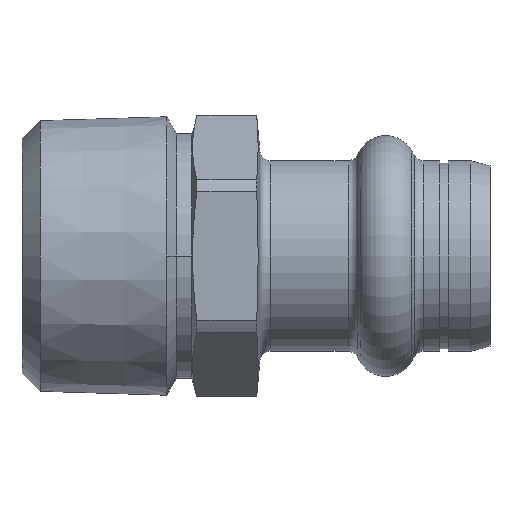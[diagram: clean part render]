
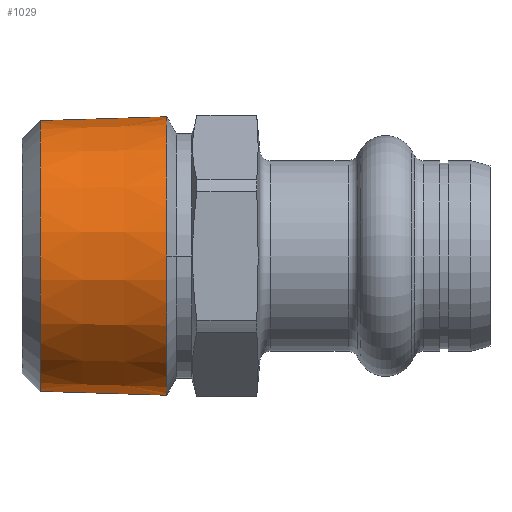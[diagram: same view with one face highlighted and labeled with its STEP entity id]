
A CAD part, left-side view. The second image highlights one B-rep face of the part: STEP entity #1029.
In plain terms, the highlighted conical face has half-angle 1.78 degrees and reference radius 13.407 mm.
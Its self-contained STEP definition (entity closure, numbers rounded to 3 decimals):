
#117 = CARTESIAN_POINT ( 'NONE',  ( 0., 29.4, -13.407 ) ) ;
#194 = LINE ( 'NONE', #1566, #651 ) ;
#306 = FACE_OUTER_BOUND ( 'NONE', #1801, .T. ) ;
#437 = VERTEX_POINT ( 'NONE', #1858 ) ;
#484 = CIRCLE ( 'NONE', #2211, 12.979 ) ;
#585 = AXIS2_PLACEMENT_3D ( 'NONE', #662, #2200, #1881 ) ;
#592 = CIRCLE ( 'NONE', #585, 13.356 ) ;
#642 = DIRECTION ( 'NONE',  ( 0., -1., 0.031 ) ) ;
#651 = VECTOR ( 'NONE', #642, 1000. ) ;
#662 = CARTESIAN_POINT ( 'NONE',  ( 0., 31.027, 0. ) ) ;
#701 = CONICAL_SURFACE ( 'NONE', #1798, 13.407, 0.031 ) ;
#737 = CARTESIAN_POINT ( 'NONE',  ( 0., 43.171, -12.979 ) ) ;
#745 = CIRCLE ( 'NONE', #1453, 13.356 ) ;
#809 = DIRECTION ( 'NONE',  ( 0., -1., 0. ) ) ;
#815 = VERTEX_POINT ( 'NONE', #1523 ) ;
#836 = DIRECTION ( 'NONE',  ( 0., -1., 0. ) ) ;
#847 = VERTEX_POINT ( 'NONE', #922 ) ;
#891 = DIRECTION ( 'NONE',  ( 0., 0., -1. ) ) ;
#922 = CARTESIAN_POINT ( 'NONE',  ( -13.356, 31.027, 0. ) ) ;
#993 = CARTESIAN_POINT ( 'NONE',  ( 0., 43.171, 0. ) ) ;
#1027 = LINE ( 'NONE', #117, #2187 ) ;
#1029 = ADVANCED_FACE ( 'NONE', ( #306 ), #701, .T. ) ;
#1063 = EDGE_CURVE ( 'NONE', #815, #437, #194, .T. ) ;
#1123 = EDGE_CURVE ( 'NONE', #437, #847, #592, .T. ) ;
#1157 = ORIENTED_EDGE ( 'NONE', *, *, #1123, .F. ) ;
#1236 = EDGE_CURVE ( 'NONE', #815, #1638, #484, .T. ) ;
#1317 = CARTESIAN_POINT ( 'NONE',  ( 0., 31.027, -13.356 ) ) ;
#1327 = DIRECTION ( 'NONE',  ( 0., -1., -0.031 ) ) ;
#1337 = VERTEX_POINT ( 'NONE', #1317 ) ;
#1445 = ORIENTED_EDGE ( 'NONE', *, *, #1236, .T. ) ;
#1453 = AXIS2_PLACEMENT_3D ( 'NONE', #1892, #836, #2060 ) ;
#1486 = CARTESIAN_POINT ( 'NONE',  ( 0., 29.4, 0. ) ) ;
#1523 = CARTESIAN_POINT ( 'NONE',  ( 0., 43.171, 12.979 ) ) ;
#1557 = ORIENTED_EDGE ( 'NONE', *, *, #2053, .T. ) ;
#1566 = CARTESIAN_POINT ( 'NONE',  ( 0., 29.4, 13.407 ) ) ;
#1638 = VERTEX_POINT ( 'NONE', #737 ) ;
#1662 = DIRECTION ( 'NONE',  ( 0., 0., -1. ) ) ;
#1676 = DIRECTION ( 'NONE',  ( 0., -1., 0. ) ) ;
#1771 = ORIENTED_EDGE ( 'NONE', *, *, #1063, .F. ) ;
#1798 = AXIS2_PLACEMENT_3D ( 'NONE', #1486, #1676, #1662 ) ;
#1801 = EDGE_LOOP ( 'NONE', ( #1771, #1445, #1557, #2154, #1157 ) ) ;
#1858 = CARTESIAN_POINT ( 'NONE',  ( 0., 31.027, 13.356 ) ) ;
#1881 = DIRECTION ( 'NONE',  ( -1., 0., 0. ) ) ;
#1892 = CARTESIAN_POINT ( 'NONE',  ( 0., 31.027, 0. ) ) ;
#2053 = EDGE_CURVE ( 'NONE', #1638, #1337, #1027, .T. ) ;
#2060 = DIRECTION ( 'NONE',  ( -1., 0., 0. ) ) ;
#2154 = ORIENTED_EDGE ( 'NONE', *, *, #2165, .F. ) ;
#2165 = EDGE_CURVE ( 'NONE', #847, #1337, #745, .T. ) ;
#2187 = VECTOR ( 'NONE', #1327, 1000. ) ;
#2200 = DIRECTION ( 'NONE',  ( 0., -1., 0. ) ) ;
#2211 = AXIS2_PLACEMENT_3D ( 'NONE', #993, #809, #891 ) ;
